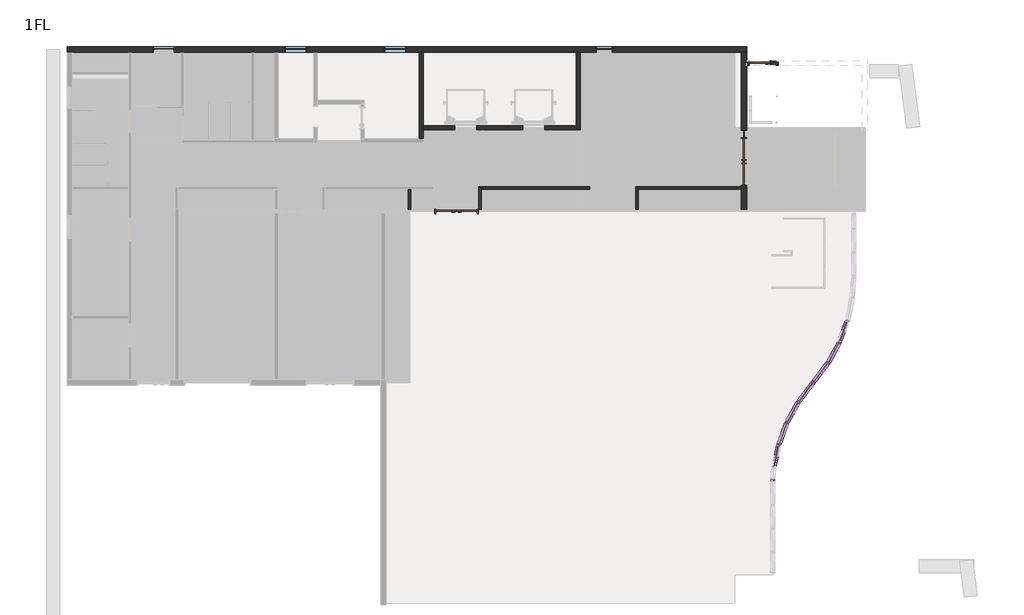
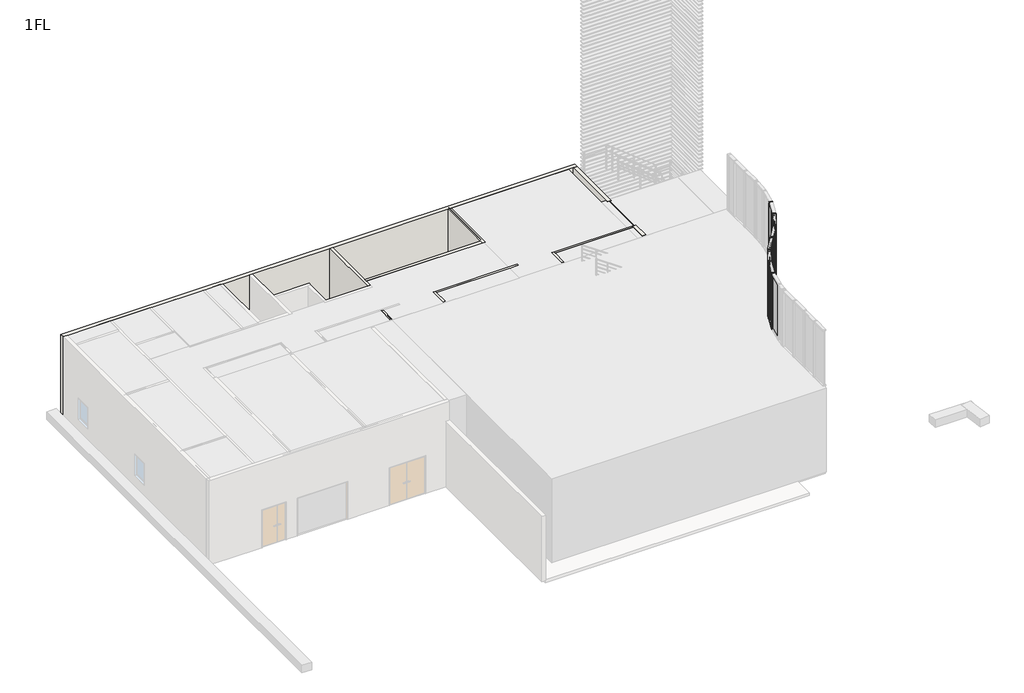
# One storey, part 3 of 4: 47 members, 22 plates, 11 walls, 4 windows, 3 doors.
"""IFC4 building model written with IfcOpenShell, lengths in millimetres."""

from ifc_helpers import new_model, si_unit, frame, origin, place, context, project, spatial, polyline, outline, extrude, faceted_brep, transform, mapped, element, save
from components import door_298ce04c, w1800h2000_ad426c29, w800h2000_09ab6a6a, member_70x150_cdd4dcf9, member_70x150_1b280ac3, member_70x150_f8cbd96f, member_70x150_4e68411c, member_70x150_de2330a6, member_70x150_827824a2, member_70x150_482b1498, member_70x150_afe49929, member_70x150_151b7a31, member_70x150_beb285de, member_70x150_2d59e3c7, member_70x150_2211757b, member_70x150_91355738, member_70x150_d69aca67, plate_28587fd3, plate_582e668a, plate_5bdd5470, w600_h3000_a9a4ebe6, w800_h1100_43525bd9, w800_h1100_2b598eca

model = new_model("IFC4")

# Units and contexts
model_context = context("Model", 3, world=origin())
ifc_project = project(units=[si_unit("LENGTHUNIT", "METRE", prefix="MILLI")], contexts=[model_context])

# Site, building, storey
site = spatial("IfcSite", under=ifc_project)
building = spatial("IfcBuilding", under=site)
storey = spatial("IfcBuildingStorey", under=building, Name="1FL", Elevation=100.0)

# Doors
placement = place(None, origin())
door_shape = door_298ce04c(model_context)
element("IfcDoor", 1, ObjectType="両開き戸 : 両開き：w1600h2000", at=placement, inside=storey, context=model_context, shape_type="MappedRepresentation", body=[
    mapped(door_shape, transform((-14037.5067943, 10449.6868987, 100.0), x_axis=(1.0, 0.0, 0.0), y_axis=(0.0, 1.0, 0.0), z_axis=(0.0, 0.0, 1.0))),
])
w1800h2000_shape = w1800h2000_ad426c29(model_context)
element("IfcDoor", 2, ObjectType="自由扉 : w1800h2000", at=placement, inside=storey, context=model_context, shape_type="MappedRepresentation", body=[
    mapped(w1800h2000_shape, transform((-3045.9784025, 12349.6868987, 100.0), x_axis=(0.0, -1.0, 0.0), y_axis=(1.0, 0.0, 0.0), z_axis=(0.0, 0.0, 1.0))),
])
w800h2000_shape = w800h2000_09ab6a6a(model_context)
element("IfcDoor", 3, ObjectType="片開き戸 : w800h2000", at=placement, inside=storey, context=model_context, shape_type="MappedRepresentation", body=[
    mapped(w800h2000_shape, transform((-2445.9784025, 16124.6868987, 100.0), x_axis=(-1.0, 0.0, 0.0), y_axis=(0.0, -1.0, 0.0), z_axis=(0.0, 0.0, 1.0))),
])

# Members
member_70x150_shape = member_70x150_cdd4dcf9(model_context)
element("IfcMember", 4, ObjectType="長方形のマリオン : 70x150", at=placement, inside=storey, context=model_context, shape_type="MappedRepresentation", body=[
    mapped(member_70x150_shape, transform((602.9638744, 5432.803778, 100.0), x_axis=(0.4146039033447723, 0.9100019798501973, 0.0), y_axis=(0.9100019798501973, -0.4146039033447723, 0.0), z_axis=(0.0, 0.0, -1.0))),
])
element("IfcMember", 5, ObjectType="長方形のマリオン : 70x150", at=placement, inside=storey, context=model_context, shape_type="MappedRepresentation", body=[
    mapped(member_70x150_shape, transform((170.6423616, 4643.4381405, 100.0), x_axis=(0.5435128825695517, 0.8394008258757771, 0.0), y_axis=(0.8394008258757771, -0.5435128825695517, 0.0), z_axis=(0.0, 0.0, -1.0))),
])
element("IfcMember", 6, ObjectType="長方形のマリオン : 70x150", at=placement, inside=storey, context=model_context, shape_type="MappedRepresentation", body=[
    mapped(member_70x150_shape, transform((-1396.8239853, 2367.7127496, 100.0), x_axis=(-0.4168091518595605, -0.9089940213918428, 0.0), y_axis=(-0.9089940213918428, 0.4168091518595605, 0.0), z_axis=(0.0, 0.0, -1.0))),
])
element("IfcMember", 7, ObjectType="長方形のマリオン : 70x150", at=placement, inside=storey, context=model_context, shape_type="MappedRepresentation", body=[
    mapped(member_70x150_shape, transform((-1711.3190408, 1524.4495285, 100.0), x_axis=(-0.28020945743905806, -0.9599388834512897, 0.0), y_axis=(-0.9599388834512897, 0.28020945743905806, 0.0), z_axis=(0.0, 0.0, -1.0))),
])
element("IfcMember", 8, ObjectType="長方形のマリオン : 70x150", at=placement, inside=storey, context=model_context, shape_type="MappedRepresentation", body=[
    mapped(member_70x150_shape, transform((-963.0585466, 3156.2858561, 100.0), x_axis=(-0.5445496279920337, -0.8387286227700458, 0.0), y_axis=(-0.8387286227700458, 0.5445496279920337, 0.0), z_axis=(0.0, 0.0, -1.0))),
])
member_70x150_2_shape = member_70x150_1b280ac3(model_context)
element("IfcMember", 9, ObjectType="長方形のマリオン : 70x150", at=placement, inside=storey, context=model_context, shape_type="MappedRepresentation", body=[
    mapped(member_70x150_2_shape, transform((-395.9784025, 3899.6868987, 3100.0), x_axis=(-0.6060115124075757, -0.7954558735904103, 0.0), y_axis=(0.7954558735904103, -0.6060115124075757, 0.0), z_axis=(0.0, 0.0, 1.0))),
])
element("IfcMember", 10, ObjectType="長方形のマリオン : 70x150", at=placement, inside=storey, context=model_context, shape_type="MappedRepresentation", body=[
    mapped(member_70x150_2_shape, transform((-395.9784025, 3899.6868987, 3100.0), x_axis=(0.6065028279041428, 0.7950813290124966, 0.0), y_axis=(-0.7950813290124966, 0.6065028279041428, 0.0), z_axis=(0.0, 0.0, 1.0))),
])
member_70x150_3_shape = member_70x150_f8cbd96f(model_context)
element("IfcMember", 11, ObjectType="長方形のマリオン : 70x150", at=placement, inside=storey, context=model_context, shape_type="MappedRepresentation", body=[
    mapped(member_70x150_3_shape, transform((602.9638744, 5432.803778, 3100.0), x_axis=(0.4146039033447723, 0.9100019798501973, 0.0), y_axis=(0.9100019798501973, -0.4146039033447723, 0.0), z_axis=(0.0, 0.0, -1.0))),
])
element("IfcMember", 12, ObjectType="長方形のマリオン : 70x150", at=placement, inside=storey, context=model_context, shape_type="MappedRepresentation", body=[
    mapped(member_70x150_3_shape, transform((914.9114935, 6277.0126875, 3100.0), x_axis=(0.27673863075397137, 0.960945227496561, 0.0), y_axis=(0.960945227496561, -0.27673863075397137, 0.0), z_axis=(0.0, 0.0, -1.0))),
])
element("IfcMember", 13, ObjectType="長方形のマリオン : 70x150", at=placement, inside=storey, context=model_context, shape_type="MappedRepresentation", body=[
    mapped(member_70x150_3_shape, transform((170.6423616, 4643.4381405, 3100.0), x_axis=(0.5435128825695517, 0.8394008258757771, 0.0), y_axis=(0.8394008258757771, -0.5435128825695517, 0.0), z_axis=(0.0, 0.0, -1.0))),
])
element("IfcMember", 14, ObjectType="長方形のマリオン : 70x150", at=placement, inside=storey, context=model_context, shape_type="MappedRepresentation", body=[
    mapped(member_70x150_3_shape, transform((-963.0585466, 3156.2858561, 3100.0), x_axis=(-0.5445496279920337, -0.8387286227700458, 0.0), y_axis=(-0.8387286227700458, 0.5445496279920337, 0.0), z_axis=(0.0, 0.0, -1.0))),
])
element("IfcMember", 15, ObjectType="長方形のマリオン : 70x150", at=placement, inside=storey, context=model_context, shape_type="MappedRepresentation", body=[
    mapped(member_70x150_3_shape, transform((-1396.8239853, 2367.7127496, 3100.0), x_axis=(-0.4168091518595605, -0.9089940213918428, 0.0), y_axis=(-0.9089940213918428, 0.4168091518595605, 0.0), z_axis=(0.0, 0.0, -1.0))),
])
element("IfcMember", 16, ObjectType="長方形のマリオン : 70x150", at=placement, inside=storey, context=model_context, shape_type="MappedRepresentation", body=[
    mapped(member_70x150_3_shape, transform((-1711.3190408, 1524.4495285, 3100.0), x_axis=(-0.2802094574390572, -0.95993888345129, 0.0), y_axis=(-0.95993888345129, 0.2802094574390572, 0.0), z_axis=(0.0, 0.0, -1.0))),
])
element("IfcMember", 17, ObjectType="長方形のマリオン : 70x150", at=placement, inside=storey, context=model_context, shape_type="MappedRepresentation", body=[
    mapped(member_70x150_shape, transform((602.9638744, 5432.803778, 4600.0), x_axis=(0.4146039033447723, 0.9100019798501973, 0.0), y_axis=(0.9100019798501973, -0.4146039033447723, 0.0), z_axis=(0.0, 0.0, -1.0))),
])
element("IfcMember", 18, ObjectType="長方形のマリオン : 70x150", at=placement, inside=storey, context=model_context, shape_type="MappedRepresentation", body=[
    mapped(member_70x150_shape, transform((914.9114935, 6277.0126875, 4600.0), x_axis=(0.27673863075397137, 0.960945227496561, 0.0), y_axis=(0.960945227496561, -0.27673863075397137, 0.0), z_axis=(0.0, 0.0, -1.0))),
])
element("IfcMember", 19, ObjectType="長方形のマリオン : 70x150", at=placement, inside=storey, context=model_context, shape_type="MappedRepresentation", body=[
    mapped(member_70x150_shape, transform((170.6423616, 4643.4381405, 4600.0), x_axis=(0.5435128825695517, 0.8394008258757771, 0.0), y_axis=(0.8394008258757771, -0.5435128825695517, 0.0), z_axis=(0.0, 0.0, -1.0))),
])
element("IfcMember", 20, ObjectType="長方形のマリオン : 70x150", at=placement, inside=storey, context=model_context, shape_type="MappedRepresentation", body=[
    mapped(member_70x150_shape, transform((-963.0585466, 3156.2858561, 4600.0), x_axis=(-0.5445496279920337, -0.8387286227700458, 0.0), y_axis=(-0.8387286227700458, 0.5445496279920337, 0.0), z_axis=(0.0, 0.0, -1.0))),
])
element("IfcMember", 21, ObjectType="長方形のマリオン : 70x150", at=placement, inside=storey, context=model_context, shape_type="MappedRepresentation", body=[
    mapped(member_70x150_shape, transform((-1711.3190408, 1524.4495285, 4600.0), x_axis=(-0.2802094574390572, -0.95993888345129, 0.0), y_axis=(-0.95993888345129, 0.2802094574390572, 0.0), z_axis=(0.0, 0.0, -1.0))),
])
element("IfcMember", 22, ObjectType="長方形のマリオン : 70x150", at=placement, inside=storey, context=model_context, shape_type="MappedRepresentation", body=[
    mapped(member_70x150_shape, transform((-1396.8239853, 2367.7127496, 4600.0), x_axis=(-0.4168091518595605, -0.9089940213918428, 0.0), y_axis=(-0.9089940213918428, 0.4168091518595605, 0.0), z_axis=(0.0, 0.0, -1.0))),
])
member_70x150_4_shape = member_70x150_4e68411c(model_context)
element("IfcMember", 23, ObjectType="長方形のマリオン : 70x150", at=placement, inside=storey, context=model_context, shape_type="MappedRepresentation", body=[
    mapped(member_70x150_4_shape, transform((-395.9784025, 3899.6868987, 4600.0), x_axis=(-0.6060115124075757, -0.7954558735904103, 0.0), y_axis=(0.7954558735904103, -0.6060115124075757, 0.0), z_axis=(0.0, 0.0, 1.0))),
])
element("IfcMember", 24, ObjectType="長方形のマリオン : 70x150", at=placement, inside=storey, context=model_context, shape_type="MappedRepresentation", body=[
    mapped(member_70x150_4_shape, transform((-395.9784025, 3899.6868987, 4600.0), x_axis=(0.6065028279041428, 0.7950813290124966, 0.0), y_axis=(-0.7950813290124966, 0.6065028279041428, 0.0), z_axis=(0.0, 0.0, 1.0))),
])
element("IfcMember", 25, ObjectType="長方形のマリオン : 70x150", at=placement, inside=storey, context=model_context, shape_type="MappedRepresentation", body=[
    mapped(member_70x150_2_shape, transform((-395.9784025, 3899.6868987, 7600.0), x_axis=(-0.6060115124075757, -0.7954558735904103, 0.0), y_axis=(0.7954558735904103, -0.6060115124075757, 0.0), z_axis=(0.0, 0.0, 1.0))),
])
element("IfcMember", 26, ObjectType="長方形のマリオン : 70x150", at=placement, inside=storey, context=model_context, shape_type="MappedRepresentation", body=[
    mapped(member_70x150_2_shape, transform((-395.9784025, 3899.6868987, 7600.0), x_axis=(0.6065028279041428, 0.7950813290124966, 0.0), y_axis=(-0.7950813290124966, 0.6065028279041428, 0.0), z_axis=(0.0, 0.0, 1.0))),
])
member_70x150_5_shape = member_70x150_de2330a6(model_context)
element("IfcMember", 27, ObjectType="長方形のマリオン : 70x150", at=placement, inside=storey, context=model_context, shape_type="MappedRepresentation", body=[
    mapped(member_70x150_5_shape, transform((187.4548649, 4674.1356931, 100.0), x_axis=(0.0, 0.0, -1.0), y_axis=(0.8770729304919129, -0.4803572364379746, 0.0), z_axis=(-0.48035723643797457, -0.8770729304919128, 0.0))),
])
element("IfcMember", 28, ObjectType="長方形のマリオン : 70x150", at=placement, inside=storey, context=model_context, shape_type="MappedRepresentation", body=[
    mapped(member_70x150_5_shape, transform((615.0951707, 5465.6341244, 100.0), x_axis=(0.0, 0.0, -1.0), y_axis=(0.9380098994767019, -0.346608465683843, 0.0), z_axis=(-0.346608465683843, -0.9380098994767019, 0.0))),
])
element("IfcMember", 29, ObjectType="長方形のマリオン : 70x150", at=placement, inside=storey, context=model_context, shape_type="MappedRepresentation", body=[
    mapped(member_70x150_5_shape, transform((586.1513711, 5402.1062254, 7600.0), x_axis=(0.0, 0.0, 1.0), y_axis=(0.8770729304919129, -0.4803572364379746, 0.0), z_axis=(0.4803572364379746, 0.8770729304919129, 0.0))),
])
member_70x150_6_shape = member_70x150_827824a2(model_context)
element("IfcMember", 30, ObjectType="長方形のマリオン : 70x150", at=placement, inside=storey, context=model_context, shape_type="MappedRepresentation", body=[
    mapped(member_70x150_6_shape, transform((149.4319587, 4615.5971849, 7600.0), x_axis=(0.0, 0.0, 1.0), y_axis=(0.7954558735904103, -0.6060115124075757, 0.0), z_axis=(0.6060115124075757, 0.7954558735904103, 0.0))),
])
member_70x150_7_shape = member_70x150_482b1498(model_context)
element("IfcMember", 31, ObjectType="長方形のマリオン : 70x150", at=placement, inside=storey, context=model_context, shape_type="MappedRepresentation", body=[
    mapped(member_70x150_7_shape, transform((586.1513711, 5402.1062254, 4600.0), x_axis=(0.0, 0.0, 1.0), y_axis=(0.8770729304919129, -0.4803572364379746, 0.0), z_axis=(0.4803572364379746, 0.8770729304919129, 0.0))),
])
element("IfcMember", 32, ObjectType="長方形のマリオン : 70x150", at=placement, inside=storey, context=model_context, shape_type="MappedRepresentation", body=[
    mapped(member_70x150_7_shape, transform((586.1513711, 5402.1062254, 3100.0), x_axis=(0.0, 0.0, 1.0), y_axis=(0.8770729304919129, -0.4803572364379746, 0.0), z_axis=(0.4803572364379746, 0.8770729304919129, 0.0))),
])
member_70x150_8_shape = member_70x150_afe49929(model_context)
element("IfcMember", 33, ObjectType="長方形のマリオン : 70x150", at=placement, inside=storey, context=model_context, shape_type="MappedRepresentation", body=[
    mapped(member_70x150_8_shape, transform((149.4319587, 4615.5971849, 4600.0), x_axis=(0.0, 0.0, 1.0), y_axis=(0.7954558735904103, -0.6060115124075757, 0.0), z_axis=(0.6060115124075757, 0.7954558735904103, 0.0))),
])
element("IfcMember", 34, ObjectType="長方形のマリオン : 70x150", at=placement, inside=storey, context=model_context, shape_type="MappedRepresentation", body=[
    mapped(member_70x150_8_shape, transform((149.4319587, 4615.5971849, 3100.0), x_axis=(0.0, 0.0, 1.0), y_axis=(0.7954558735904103, -0.6060115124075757, 0.0), z_axis=(0.6060115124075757, 0.7954558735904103, 0.0))),
])
member_70x150_9_shape = member_70x150_151b7a31(model_context)
element("IfcMember", 35, ObjectType="長方形のマリオン : 70x150", at=placement, inside=storey, context=model_context, shape_type="MappedRepresentation", body=[
    mapped(member_70x150_9_shape, transform((-353.5575966, 3955.3688099, 100.0), x_axis=(0.0, 0.0, -1.0), y_axis=(0.7954558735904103, -0.6060115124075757, 0.0), z_axis=(-0.6060115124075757, -0.7954558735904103, 0.0))),
])
member_70x150_10_shape = member_70x150_beb285de(model_context)
element("IfcMember", 36, ObjectType="長方形のマリオン : 70x150", at=placement, inside=storey, context=model_context, shape_type="MappedRepresentation", body=[
    mapped(member_70x150_10_shape, transform((-1699.0886775, 1557.2430982, 4600.0), x_axis=(0.0, 0.0, 1.0), y_axis=(-0.9369591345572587, 0.3494389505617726, 0.0), z_axis=(-0.3494389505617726, -0.9369591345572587, 0.0))),
])
element("IfcMember", 37, ObjectType="長方形のマリオン : 70x150", at=placement, inside=storey, context=model_context, shape_type="MappedRepresentation", body=[
    mapped(member_70x150_10_shape, transform((-1379.9553293, 2398.3794815, 4600.0), x_axis=(0.0, 0.0, 1.0), y_axis=(-0.8761923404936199, 0.4819615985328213, 0.0), z_axis=(-0.4819615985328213, -0.8761923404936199, 0.0))),
])
element("IfcMember", 38, ObjectType="長方形のマリオン : 70x150", at=placement, inside=storey, context=model_context, shape_type="MappedRepresentation", body=[
    mapped(member_70x150_10_shape, transform((-1379.9553293, 2398.3794815, 3100.0), x_axis=(0.0, 0.0, 1.0), y_axis=(-0.8761923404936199, 0.4819615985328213, 0.0), z_axis=(-0.4819615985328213, -0.8761923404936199, 0.0))),
])
element("IfcMember", 39, ObjectType="長方形のマリオン : 70x150", at=placement, inside=storey, context=model_context, shape_type="MappedRepresentation", body=[
    mapped(member_70x150_10_shape, transform((-1699.0886775, 1557.2430982, 3100.0), x_axis=(0.0, 0.0, 1.0), y_axis=(-0.9369591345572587, 0.3494389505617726, 0.0), z_axis=(-0.3494389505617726, -0.9369591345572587, 0.0))),
])
member_70x150_11_shape = member_70x150_2d59e3c7(model_context)
element("IfcMember", 40, ObjectType="長方形のマリオン : 70x150", at=placement, inside=storey, context=model_context, shape_type="MappedRepresentation", body=[
    mapped(member_70x150_11_shape, transform((-941.8309476, 3184.1137026, 4600.0), x_axis=(0.0, 0.0, 1.0), y_axis=(-0.7950813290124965, 0.6065028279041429, 0.0), z_axis=(-0.6065028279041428, -0.7950813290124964, 0.0))),
])
member_70x150_12_shape = member_70x150_2211757b(model_context)
element("IfcMember", 41, ObjectType="長方形のマリオン : 70x150", at=placement, inside=storey, context=model_context, shape_type="MappedRepresentation", body=[
    mapped(member_70x150_12_shape, transform((-979.9272025, 3125.6191242, 100.0), x_axis=(0.0, 0.0, -1.0), y_axis=(-0.8761923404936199, 0.4819615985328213, 0.0), z_axis=(0.4819615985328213, 0.8761923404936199, 0.0))),
])
element("IfcMember", 42, ObjectType="長方形のマリオン : 70x150", at=placement, inside=storey, context=model_context, shape_type="MappedRepresentation", body=[
    mapped(member_70x150_12_shape, transform((-1718.6511568, 1490.2261436, 100.0), x_axis=(0.0, 0.0, -1.0), y_axis=(-0.9778109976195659, 0.2094890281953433, 0.0), z_axis=(0.2094890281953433, 0.9778109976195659, 0.0))),
])
element("IfcMember", 43, ObjectType="長方形のマリオン : 70x150", at=placement, inside=storey, context=model_context, shape_type="MappedRepresentation", body=[
    mapped(member_70x150_12_shape, transform((-1409.0543485, 2334.9191799, 100.0), x_axis=(0.0, 0.0, -1.0), y_axis=(-0.9369591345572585, 0.34943895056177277, 0.0), z_axis=(0.34943895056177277, 0.9369591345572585, 0.0))),
])
member_70x150_13_shape = member_70x150_91355738(model_context)
element("IfcMember", 44, ObjectType="長方形のマリオン : 70x150", at=placement, inside=storey, context=model_context, shape_type="MappedRepresentation", body=[
    mapped(member_70x150_13_shape, transform((-941.8309476, 3184.1137026, 7600.0), x_axis=(0.0, 0.0, 1.0), y_axis=(-0.7950813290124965, 0.6065028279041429, 0.0), z_axis=(-0.6065028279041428, -0.7950813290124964, 0.0))),
])
element("IfcMember", 45, ObjectType="長方形のマリオン : 70x150", at=placement, inside=storey, context=model_context, shape_type="MappedRepresentation", body=[
    mapped(member_70x150_12_shape, transform((-1699.0886775, 1557.2430982, 7600.0), x_axis=(0.0, 0.0, 1.0), y_axis=(-0.9369591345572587, 0.3494389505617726, 0.0), z_axis=(-0.3494389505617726, -0.9369591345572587, 0.0))),
])
element("IfcMember", 46, ObjectType="長方形のマリオン : 70x150", at=placement, inside=storey, context=model_context, shape_type="MappedRepresentation", body=[
    mapped(member_70x150_12_shape, transform((-1379.9553293, 2398.3794815, 7600.0), x_axis=(0.0, 0.0, 1.0), y_axis=(-0.8761923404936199, 0.4819615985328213, 0.0), z_axis=(-0.4819615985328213, -0.8761923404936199, 0.0))),
])
element("IfcMember", 47, ObjectType="長方形のマリオン : 70x150", at=placement, inside=storey, context=model_context, shape_type="MappedRepresentation", body=[
    mapped(member_70x150_11_shape, transform((-941.8309476, 3184.1137026, 3100.0), x_axis=(0.0, 0.0, 1.0), y_axis=(-0.7950813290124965, 0.6065028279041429, 0.0), z_axis=(-0.6065028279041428, -0.7950813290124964, 0.0))),
])
member_70x150_14_shape = member_70x150_d69aca67(model_context)
element("IfcMember", 48, ObjectType="長方形のマリオン : 70x150", at=placement, inside=storey, context=model_context, shape_type="MappedRepresentation", body=[
    mapped(member_70x150_14_shape, transform((-438.4336005, 3844.0312057, 100.0), x_axis=(0.0, 0.0, -1.0), y_axis=(-0.7950813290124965, 0.6065028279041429, 0.0), z_axis=(0.6065028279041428, 0.7950813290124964, 0.0))),
])
element("IfcMember", 49, ObjectType="長方形のマリオン : 70x150", at=placement, inside=storey, context=model_context, shape_type="MappedRepresentation", body=[
    mapped(member_70x150_4_shape, transform((-1945.9784025, 189.6095485, 3100.0), x_axis=(0.0, 1.0, 0.0), y_axis=(1.0, 0.0, 0.0), z_axis=(0.0, 0.0, -1.0))),
])
element("IfcMember", 50, ObjectType="長方形のマリオン : 70x150", at=placement, inside=storey, context=model_context, shape_type="MappedRepresentation", body=[
    mapped(member_70x150_2_shape, transform((-1945.9784025, 189.6095485, 100.0), x_axis=(0.0, 1.0, 0.0), y_axis=(1.0, 0.0, 0.0), z_axis=(0.0, 0.0, -1.0))),
])

# Plates
plate_shape = plate_28587fd3(model_context)
element("IfcPlate", 51, ObjectType="システム パネル : 標準", at=placement, inside=storey, context=model_context, shape_type="MappedRepresentation", body=[
    mapped(plate_shape, transform((-102.062819, 4285.4829974, 170.0), x_axis=(0.6060115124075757, 0.7954558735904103, 0.0), y_axis=(-0.7954558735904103, 0.6060115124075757, 0.0), z_axis=(0.0, 0.0, 1.0))),
])
element("IfcPlate", 52, ObjectType="システム パネル : 標準", at=placement, inside=storey, context=model_context, shape_type="MappedRepresentation", body=[
    mapped(plate_shape, transform((386.803118, 5038.1209592, 170.0), x_axis=(0.48035723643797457, 0.8770729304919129, 0.0), y_axis=(-0.8770729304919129, 0.48035723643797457, 0.0), z_axis=(0.0, 0.0, 1.0))),
])
element("IfcPlate", 53, ObjectType="システム パネル : 標準", at=placement, inside=storey, context=model_context, shape_type="MappedRepresentation", body=[
    mapped(plate_shape, transform((758.9376839, 5854.9082327, 170.0), x_axis=(0.346608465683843, 0.9380098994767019, 0.0), y_axis=(-0.9380098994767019, 0.346608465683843, 0.0), z_axis=(0.0, 0.0, 1.0))),
])
element("IfcPlate", 54, ObjectType="システム パネル : 標準", at=placement, inside=storey, context=model_context, shape_type="MappedRepresentation", body=[
    mapped(plate_shape, transform((-690.132274, 3514.0724541, 170.0), x_axis=(-0.6065028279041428, -0.7950813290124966, 0.0), y_axis=(0.7950813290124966, -0.6065028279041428, 0.0), z_axis=(0.0, 0.0, 1.0))),
])
element("IfcPlate", 55, ObjectType="システム パネル : 標準", at=placement, inside=storey, context=model_context, shape_type="MappedRepresentation", body=[
    mapped(plate_shape, transform((-1179.9412659, 2761.9993029, 170.0), x_axis=(-0.4819615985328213, -0.8761923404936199, 0.0), y_axis=(0.8761923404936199, -0.4819615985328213, 0.0), z_axis=(0.0, 0.0, 1.0))),
])
element("IfcPlate", 56, ObjectType="システム パネル : 標準", at=placement, inside=storey, context=model_context, shape_type="MappedRepresentation", body=[
    mapped(plate_shape, transform((-1554.071513, 1946.0811391, 170.0), x_axis=(-0.34943895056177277, -0.9369591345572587, 0.0), y_axis=(0.9369591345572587, -0.34943895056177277, 0.0), z_axis=(0.0, 0.0, 1.0))),
])
element("IfcPlate", 57, ObjectType="システム パネル : 標準", at=placement, inside=storey, context=model_context, shape_type="MappedRepresentation", body=[
    mapped(plate_shape, transform((-1805.5891035, 1084.4345796, 170.0), x_axis=(-0.20948902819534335, -0.9778109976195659, 0.0), y_axis=(0.9778109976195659, -0.20948902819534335, 0.0), z_axis=(0.0, 0.0, 1.0))),
])
element("IfcPlate", 58, ObjectType="システム パネル : 標準", at=placement, inside=storey, context=model_context, shape_type="MappedRepresentation", body=[
    mapped(plate_shape, transform((-102.062819, 4285.4829974, 4635.0), x_axis=(0.6060115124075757, 0.7954558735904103, 0.0), y_axis=(-0.7954558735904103, 0.6060115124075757, 0.0), z_axis=(0.0, 0.0, 1.0))),
])
element("IfcPlate", 59, ObjectType="システム パネル : 標準", at=placement, inside=storey, context=model_context, shape_type="MappedRepresentation", body=[
    mapped(plate_shape, transform((386.803118, 5038.1209592, 4635.0), x_axis=(0.48035723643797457, 0.8770729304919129, 0.0), y_axis=(-0.8770729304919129, 0.48035723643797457, 0.0), z_axis=(0.0, 0.0, 1.0))),
])
element("IfcPlate", 60, ObjectType="システム パネル : 標準", at=placement, inside=storey, context=model_context, shape_type="MappedRepresentation", body=[
    mapped(plate_shape, transform((758.9376839, 5854.9082327, 4635.0), x_axis=(0.346608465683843, 0.9380098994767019, 0.0), y_axis=(-0.9380098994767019, 0.346608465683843, 0.0), z_axis=(0.0, 0.0, 1.0))),
])
element("IfcPlate", 61, ObjectType="システム パネル : 標準", at=placement, inside=storey, context=model_context, shape_type="MappedRepresentation", body=[
    mapped(plate_shape, transform((-690.132274, 3514.0724541, 4635.0), x_axis=(-0.6065028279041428, -0.7950813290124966, 0.0), y_axis=(0.7950813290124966, -0.6065028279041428, 0.0), z_axis=(0.0, 0.0, 1.0))),
])
element("IfcPlate", 62, ObjectType="システム パネル : 標準", at=placement, inside=storey, context=model_context, shape_type="MappedRepresentation", body=[
    mapped(plate_shape, transform((-1179.9412659, 2761.9993029, 4635.0), x_axis=(-0.4819615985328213, -0.8761923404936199, 0.0), y_axis=(0.8761923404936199, -0.4819615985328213, 0.0), z_axis=(0.0, 0.0, 1.0))),
])
element("IfcPlate", 63, ObjectType="システム パネル : 標準", at=placement, inside=storey, context=model_context, shape_type="MappedRepresentation", body=[
    mapped(plate_shape, transform((-1554.071513, 1946.0811391, 4635.0), x_axis=(-0.34943895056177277, -0.9369591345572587, 0.0), y_axis=(0.9369591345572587, -0.34943895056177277, 0.0), z_axis=(0.0, 0.0, 1.0))),
])
element("IfcPlate", 64, ObjectType="システム パネル : 標準", at=placement, inside=storey, context=model_context, shape_type="MappedRepresentation", body=[
    mapped(plate_shape, transform((-1805.5891035, 1084.4345796, 4635.0), x_axis=(-0.20948902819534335, -0.9778109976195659, 0.0), y_axis=(0.9778109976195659, -0.20948902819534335, 0.0), z_axis=(0.0, 0.0, 1.0))),
])
plate_2_shape = plate_582e668a(model_context)
element("IfcPlate", 65, ObjectType="システム パネル : 標準", at=placement, inside=storey, context=model_context, shape_type="MappedRepresentation", body=[
    mapped(plate_2_shape, transform((-102.062819, 4285.4829974, 3135.0), x_axis=(0.6060115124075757, 0.7954558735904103, 0.0), y_axis=(-0.7954558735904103, 0.6060115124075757, 0.0), z_axis=(0.0, 0.0, 1.0))),
])
element("IfcPlate", 66, ObjectType="システム パネル : 標準", at=placement, inside=storey, context=model_context, shape_type="MappedRepresentation", body=[
    mapped(plate_2_shape, transform((386.803118, 5038.1209592, 3135.0), x_axis=(0.48035723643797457, 0.8770729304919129, 0.0), y_axis=(-0.8770729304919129, 0.48035723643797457, 0.0), z_axis=(0.0, 0.0, 1.0))),
])
element("IfcPlate", 67, ObjectType="システム パネル : 標準", at=placement, inside=storey, context=model_context, shape_type="MappedRepresentation", body=[
    mapped(plate_2_shape, transform((758.9376839, 5854.9082327, 3135.0), x_axis=(0.346608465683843, 0.9380098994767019, 0.0), y_axis=(-0.9380098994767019, 0.346608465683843, 0.0), z_axis=(0.0, 0.0, 1.0))),
])
element("IfcPlate", 68, ObjectType="システム パネル : 標準", at=placement, inside=storey, context=model_context, shape_type="MappedRepresentation", body=[
    mapped(plate_2_shape, transform((-690.132274, 3514.0724541, 3135.0), x_axis=(-0.6065028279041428, -0.7950813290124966, 0.0), y_axis=(0.7950813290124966, -0.6065028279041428, 0.0), z_axis=(0.0, 0.0, 1.0))),
])
element("IfcPlate", 69, ObjectType="システム パネル : 標準", at=placement, inside=storey, context=model_context, shape_type="MappedRepresentation", body=[
    mapped(plate_2_shape, transform((-1179.9412659, 2761.9993029, 3135.0), x_axis=(-0.4819615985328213, -0.8761923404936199, 0.0), y_axis=(0.8761923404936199, -0.4819615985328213, 0.0), z_axis=(0.0, 0.0, 1.0))),
])
element("IfcPlate", 70, ObjectType="システム パネル : 標準", at=placement, inside=storey, context=model_context, shape_type="MappedRepresentation", body=[
    mapped(plate_2_shape, transform((-1554.071513, 1946.0811391, 3135.0), x_axis=(-0.34943895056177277, -0.9369591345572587, 0.0), y_axis=(0.9369591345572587, -0.34943895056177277, 0.0), z_axis=(0.0, 0.0, 1.0))),
])
element("IfcPlate", 71, ObjectType="システム パネル : 標準", at=placement, inside=storey, context=model_context, shape_type="MappedRepresentation", body=[
    mapped(plate_2_shape, transform((-1805.5891035, 1084.4345796, 3135.0), x_axis=(-0.20948902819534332, -0.9778109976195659, 0.0), y_axis=(0.9778109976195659, -0.20948902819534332, 0.0), z_axis=(0.0, 0.0, 1.0))),
])
plate_3_shape = plate_5bdd5470(model_context)
element("IfcPlate", 72, ObjectType="システム パネル : 標準", at=placement, inside=storey, context=model_context, shape_type="MappedRepresentation", body=[
    mapped(plate_3_shape, transform((-3045.9784025, 12474.6868987, 100.0), x_axis=(0.0, 1.0, 0.0), y_axis=(-1.0, 0.0, 0.0), z_axis=(0.0, 0.0, 1.0))),
])

# Walls
element("IfcWall", 73, ObjectType="標準200", at=placement, inside=storey, context=model_context, shape_type="Brep", body=[
    faceted_brep([(-28945.9784025, 16549.6868987, 4600.0), (-28945.9784025, 16549.6868987, 100.0), (-28745.9784025, 16549.6868987, 100.0), (-27945.9784025, 16549.6868987, 100.0), (-26595.9784025, 16549.6868987, 100.0), (-26495.9784025, 16549.6868987, 100.0), (-24595.9784025, 16549.6868987, 100.0), (-24495.9784025, 16549.6868987, 100.0), (-21895.9784025, 16549.6868987, 100.0), (-21795.9784025, 16549.6868987, 100.0), (-21020.9784025, 16549.6868987, 100.0), (-20870.9784025, 16549.6868987, 100.0), (-19520.9784025, 16549.6868987, 100.0), (-19370.9784025, 16549.6868987, 100.0), (-15845.9784025, 16549.6868987, 100.0), (-15470.9784025, 16549.6868987, 100.0), (-15320.9784025, 16549.6868987, 100.0), (-14945.9784025, 16549.6868987, 100.0), (-9845.9784025, 16549.6868987, 100.0), (-9470.9784025, 16549.6868987, 100.0), (-9320.9784025, 16549.6868987, 100.0), (-8945.9784025, 16549.6868987, 100.0), (-3845.9784025, 16549.6868987, 100.0), (-3145.9784025, 16549.6868987, 100.0), (-2945.9784025, 16549.6868987, 100.0), (-2945.9784025, 16549.6868987, 4600.0), (-3145.9784025, 16549.6868987, 4600.0), (-9320.9784025, 16549.6868987, 4600.0), (-9470.9784025, 16549.6868987, 4600.0), (-15320.9784025, 16549.6868987, 4600.0), (-15470.9784025, 16549.6868987, 4600.0), (-19370.9784025, 16549.6868987, 4600.0), (-19520.9784025, 16549.6868987, 4600.0), (-20870.9784025, 16549.6868987, 4600.0), (-21020.9784025, 16549.6868987, 4600.0), (-21795.9784025, 16549.6868987, 4600.0), (-21895.9784025, 16549.6868987, 4600.0), (-24495.9784025, 16549.6868987, 4600.0), (-24595.9784025, 16549.6868987, 4600.0), (-26495.9784025, 16549.6868987, 4600.0), (-26595.9784025, 16549.6868987, 4600.0), (-28745.9784025, 16549.6868987, 4600.0), (-8070.9784025, 16549.6868987, 3425.0), (-8070.9784025, 16549.6868987, 375.0), (-8720.9784025, 16549.6868987, 375.0), (-8720.9784025, 16549.6868987, 3425.0), (-16820.9784025, 16549.6868987, 2125.0), (-15970.9784025, 16549.6868987, 2125.0), (-15970.9784025, 16549.6868987, 975.0), (-16820.9784025, 16549.6868987, 975.0), (-19770.9784025, 16549.6868987, 2125.0), (-19770.9784025, 16549.6868987, 975.0), (-20620.9784025, 16549.6868987, 975.0), (-20620.9784025, 16549.6868987, 2125.0), (-24820.9784025, 16549.6868987, 2125.0), (-24820.9784025, 16549.6868987, 975.0), (-25670.9784025, 16549.6868987, 975.0), (-25670.9784025, 16549.6868987, 2125.0), (-28945.9784025, 16749.6868987, 100.0), (-28945.9784025, 16749.6868987, 4600.0), (-2945.9784025, 16749.6868987, 4600.0), (-2945.9784025, 16749.6868987, 100.0), (-8070.9784025, 16749.6868987, 3425.0), (-8720.9784025, 16749.6868987, 3425.0), (-8720.9784025, 16749.6868987, 375.0), (-8070.9784025, 16749.6868987, 375.0), (-16820.9784025, 16749.6868987, 2125.0), (-16820.9784025, 16749.6868987, 975.0), (-15970.9784025, 16749.6868987, 975.0), (-15970.9784025, 16749.6868987, 2125.0), (-19770.9784025, 16749.6868987, 2125.0), (-20620.9784025, 16749.6868987, 2125.0), (-20620.9784025, 16749.6868987, 975.0), (-19770.9784025, 16749.6868987, 975.0), (-24820.9784025, 16749.6868987, 2125.0), (-25670.9784025, 16749.6868987, 2125.0), (-25670.9784025, 16749.6868987, 975.0), (-24820.9784025, 16749.6868987, 975.0), (-2945.9784025, 16649.6868987, 100.0)], [[[0, 1, 2, 3, 4, 5, 6, 7, 8, 9, 10, 11, 12, 13, 14, 15, 16, 17, 18, 19, 20, 21, 22, 23, 24, 25, 26, 27, 28, 29, 30, 31, 32, 33, 34, 35, 36, 37, 38, 39, 40, 41], [42, 43, 44, 45], [46, 47, 48, 49], [50, 51, 52, 53], [54, 55, 56, 57]], [[58, 59, 60, 61], [62, 63, 64, 65], [66, 67, 68, 69], [70, 71, 72, 73], [74, 75, 76, 77]], [[24, 23, 22, 21, 20, 19, 18, 17, 16, 15, 14, 13, 12, 11, 10, 9, 8, 7, 6, 5, 4, 3, 2, 1, 58, 61, 78]], [[0, 41, 40, 39, 38, 37, 36, 35, 34, 33, 32, 31, 30, 29, 28, 27, 26, 25, 60, 59]], [[25, 24, 78, 61, 60]], [[0, 59, 58, 1]], [[43, 42, 62, 65]], [[44, 43, 65, 64]], [[45, 44, 64, 63]], [[42, 45, 63, 62]], [[67, 66, 46, 49]], [[68, 67, 49, 48]], [[69, 68, 48, 47]], [[66, 69, 47, 46]], [[51, 50, 70, 73]], [[52, 51, 73, 72]], [[53, 52, 72, 71]], [[50, 53, 71, 70]], [[55, 54, 74, 77]], [[56, 55, 77, 76]], [[57, 56, 76, 75]], [[54, 57, 75, 74]]]),
])
element("IfcWall", 74, ObjectType="標準200", at=placement, inside=storey, context=model_context, shape_type="Brep", body=[
    faceted_brep([(-3145.9784025, 16549.6868987, 4600.0), (-3145.9784025, 16549.6868987, 100.0), (-3145.9784025, 15749.6868987, 100.0), (-3145.9784025, 13549.6868987, 100.0), (-3145.9784025, 13549.6868987, 4600.0), (-2945.9784025, 16549.6868987, 100.0), (-2945.9784025, 16549.6868987, 4600.0), (-2945.9784025, 13549.6868987, 4600.0), (-2945.9784025, 13549.6868987, 3500.0), (-2945.9784025, 13549.6868987, 100.0), (-2945.9784025, 15749.6868987, 100.0), (-2945.9784025, 16049.6868987, 100.0), (-2945.9784025, 16199.6868987, 100.0)], [[[0, 1, 2, 3, 4]], [[5, 6, 7, 8, 9, 10, 11, 12]], [[1, 5, 12, 11, 10, 9, 3, 2]], [[6, 0, 4, 7]], [[1, 0, 6, 5]], [[4, 3, 9, 8, 7]]]),
    faceted_brep([(-3145.9784025, 10524.6868987, 100.0), (-3145.9784025, 10524.6868987, 4600.0), (-3145.9784025, 11299.6868987, 4600.0), (-3145.9784025, 11399.6868987, 4600.0), (-3145.9784025, 11399.6868987, 100.0), (-3145.9784025, 11299.6868987, 100.0), (-2945.9784025, 10524.6868987, 4600.0), (-2945.9784025, 10524.6868987, 100.0), (-2945.9784025, 11349.6868987, 100.0), (-2945.9784025, 11399.6868987, 100.0), (-2945.9784025, 11399.6868987, 4600.0)], [[[0, 1, 2, 3, 4, 5]], [[6, 7, 8, 9, 10]], [[7, 0, 5, 4, 9, 8]], [[1, 6, 10, 3, 2]], [[1, 0, 7, 6]], [[4, 3, 10, 9]]]),
])
element("IfcWall", 75, ObjectType="標準150", at=placement, inside=storey, context=model_context, shape_type="Brep", body=[
    faceted_brep([(-9470.9784025, 16549.6868987, 100.0), (-9470.9784025, 15749.6868987, 100.0), (-9470.9784025, 13724.6868987, 100.0), (-9470.9784025, 13574.6868987, 100.0), (-9470.9784025, 13574.6868987, 4600.0), (-9470.9784025, 13724.6868987, 4600.0), (-9470.9784025, 16549.6868987, 4600.0), (-9320.9784025, 16549.6868987, 100.0), (-9320.9784025, 16549.6868987, 4600.0), (-9320.9784025, 13574.6868987, 4600.0), (-9320.9784025, 13574.6868987, 100.0), (-9320.9784025, 15749.6868987, 100.0)], [[[0, 1, 2, 3, 4, 5, 6]], [[7, 8, 9, 10, 11]], [[3, 2, 1, 0, 7, 11, 10]], [[6, 5, 4, 9, 8]], [[0, 6, 8, 7]], [[4, 3, 10, 9]]]),
])
element("IfcWall", 76, ObjectType="標準150", at=placement, inside=storey, context=model_context, shape_type="SweptSolid", body=[
    extrude(outline(polyline([(100.0, -15320.9784025), (100.0, -14120.9784025), (2225.0, -14120.9784025), (2225.0, -13270.9784025), (100.0, -13270.9784025), (100.0, -11520.9784025), (2225.0, -11520.9784025), (2225.0, -10670.9784025), (100.0, -10670.9784025), (100.0, -9470.9784025), (4600.0, -9470.9784025), (4600.0, -15320.9784025), (100.0, -15320.9784025)])), frame((0.0, 13574.6868987, 0.0), z_axis=(0.0, 1.0, 0.0), x_axis=(0.0, 0.0, 1.0)), (0.0, 0.0, 1.0), 150.0),
])
element("IfcWall", 77, ObjectType="標準150", at=placement, inside=storey, context=model_context, shape_type="Brep", body=[
    faceted_brep([(-15320.9784025, 13224.6868987, 100.0), (-15320.9784025, 13574.6868987, 100.0), (-15320.9784025, 13724.6868987, 100.0), (-15320.9784025, 15749.6868987, 100.0), (-15320.9784025, 16549.6868987, 100.0), (-15320.9784025, 16549.6868987, 4600.0), (-15320.9784025, 13724.6868987, 4600.0), (-15320.9784025, 13574.6868987, 4600.0), (-15320.9784025, 13224.6868987, 4600.0), (-15470.9784025, 13224.6868987, 100.0), (-15470.9784025, 13224.6868987, 4600.0), (-15470.9784025, 16549.6868987, 4600.0), (-15470.9784025, 16549.6868987, 100.0), (-15470.9784025, 15749.6868987, 100.0)], [[[0, 1, 2, 3, 4, 5, 6, 7, 8]], [[9, 10, 11, 12, 13]], [[4, 3, 2, 1, 0, 9, 13, 12]], [[8, 7, 6, 5, 11, 10]], [[5, 4, 12, 11]], [[0, 8, 10, 9]]]),
])
element("IfcWall", 78, ObjectType="標準100", at=placement, inside=storey, context=model_context, shape_type="Brep", body=[
    faceted_brep([(-15895.9784025, 11299.6868987, 100.0), (-15895.9784025, 10524.6868987, 100.0), (-15895.9784025, 10524.6868987, 4600.0), (-15895.9784025, 11299.6868987, 4600.0), (-15795.9784025, 11299.6868987, 100.0), (-15795.9784025, 11299.6868987, 4600.0), (-15795.9784025, 10524.6868987, 4600.0), (-15795.9784025, 10524.6868987, 100.0), (-15845.9784025, 11299.6868987, 100.0), (-15845.9784025, 10524.6868987, 100.0), (-15845.9784025, 11299.6868987, 4600.0)], [[[0, 1, 2, 3]], [[4, 5, 6, 7]], [[1, 0, 8, 4, 7, 9]], [[3, 2, 6, 5, 10]], [[2, 1, 9, 7, 6]], [[0, 3, 10, 5, 4, 8]]]),
])
element("IfcWall", 79, ObjectType="標準100", at=placement, inside=storey, context=model_context, shape_type="Brep", body=[
    faceted_brep([(-13095.9784025, 10524.6868987, 100.0), (-13095.9784025, 11299.6868987, 100.0), (-13095.9784025, 11399.6868987, 100.0), (-13095.9784025, 11399.6868987, 4600.0), (-13095.9784025, 11299.6868987, 4600.0), (-13095.9784025, 10524.6868987, 4600.0), (-13195.9784025, 10524.6868987, 100.0), (-13195.9784025, 10524.6868987, 4600.0), (-13195.9784025, 11399.6868987, 4600.0), (-13195.9784025, 11399.6868987, 100.0)], [[[0, 1, 2, 3, 4, 5]], [[6, 7, 8, 9]], [[2, 1, 0, 6, 9]], [[5, 4, 3, 8, 7]], [[0, 5, 7, 6]], [[3, 2, 9, 8]]]),
])
element("IfcWall", 80, ObjectType="標準100", at=placement, inside=storey, context=model_context, shape_type="Brep", body=[
    faceted_brep([(-13095.9784025, 11299.6868987, 100.0), (-9845.9784025, 11299.6868987, 100.0), (-8945.9784025, 11299.6868987, 100.0), (-8945.9784025, 11299.6868987, 4600.0), (-9345.9784025, 11299.6868987, 4600.0), (-9445.9784025, 11299.6868987, 4600.0), (-13095.9784025, 11299.6868987, 4600.0), (-13095.9784025, 11399.6868987, 100.0), (-13095.9784025, 11399.6868987, 4600.0), (-8945.9784025, 11399.6868987, 4600.0), (-8945.9784025, 11399.6868987, 100.0), (-8945.9784025, 11349.6868987, 100.0)], [[[0, 1, 2, 3, 4, 5, 6]], [[7, 8, 9, 10]], [[2, 1, 0, 7, 10, 11]], [[3, 2, 11, 10, 9]], [[6, 5, 4, 3, 9, 8]], [[0, 6, 8, 7]]]),
])
element("IfcWall", 81, ObjectType="標準100", at=placement, inside=storey, context=model_context, shape_type="Brep", body=[
    faceted_brep([(-7095.9784025, 10524.6868987, 100.0), (-7095.9784025, 11299.6868987, 100.0), (-7095.9784025, 11399.6868987, 100.0), (-7095.9784025, 11399.6868987, 4600.0), (-7095.9784025, 11299.6868987, 4600.0), (-7095.9784025, 10524.6868987, 4600.0), (-7195.9784025, 10524.6868987, 100.0), (-7195.9784025, 10524.6868987, 4600.0), (-7195.9784025, 11399.6868987, 4600.0), (-7195.9784025, 11399.6868987, 100.0)], [[[0, 1, 2, 3, 4, 5]], [[6, 7, 8, 9]], [[2, 1, 0, 6, 9]], [[5, 4, 3, 8, 7]], [[0, 5, 7, 6]], [[3, 2, 9, 8]]]),
])
element("IfcWall", 82, ObjectType="標準100", at=placement, inside=storey, context=model_context, shape_type="Brep", body=[
    faceted_brep([(-7095.9784025, 11299.6868987, 100.0), (-3845.9784025, 11299.6868987, 100.0), (-3145.9784025, 11299.6868987, 100.0), (-3145.9784025, 11299.6868987, 4600.0), (-7095.9784025, 11299.6868987, 4600.0), (-7095.9784025, 11399.6868987, 100.0), (-7095.9784025, 11399.6868987, 4600.0), (-3145.9784025, 11399.6868987, 4600.0), (-3145.9784025, 11399.6868987, 100.0), (-3145.9784025, 11349.6868987, 100.0), (-3145.9784025, 11349.6868987, 4600.0)], [[[0, 1, 2, 3, 4]], [[5, 6, 7, 8]], [[2, 1, 0, 5, 8, 9]], [[4, 3, 10, 7, 6]], [[0, 4, 6, 5]], [[3, 2, 9, 8, 7, 10]]]),
])
element("IfcWall", 83, ObjectType="標準150", at=placement, inside=storey, context=model_context, shape_type="SweptSolid", body=[
    extrude(outline(polyline([(2125.0, -2020.9784025), (100.0, -2020.9784025), (100.0, -1725.9784025), (2200.0, -1725.9784025), (2200.0, -2945.9784025), (100.0, -2945.9784025), (100.0, -2870.9784025), (2125.0, -2870.9784025), (2125.0, -2020.9784025)])), frame((0.0, 16049.6868987, 0.0), z_axis=(0.0, 1.0, 0.0), x_axis=(0.0, 0.0, 1.0)), (0.0, 0.0, 1.0), 150.0),
])

# Windows
w600_h3000_shape = w600_h3000_a9a4ebe6(model_context)
element("IfcWindow", 84, ObjectType="FIX窓 : W600 H3000", at=placement, inside=storey, context=model_context, shape_type="MappedRepresentation", body=[
    mapped(w600_h3000_shape, transform((-8470.9784025, 16649.6868987, -500.0), x_axis=(1.0, 0.0, 0.0), y_axis=(0.0, 1.0, 0.0), z_axis=(0.0, 0.0, 1.0))),
])
w800_h1100_shape = w800_h1100_43525bd9(model_context)
element("IfcWindow", 85, ObjectType="すべり出し窓 : W800 H1100", at=placement, inside=storey, context=model_context, shape_type="MappedRepresentation", body=[
    mapped(w800_h1100_shape, transform((-20270.9784025, 16649.6868987, 100.0), x_axis=(1.0, 0.0, 0.0), y_axis=(0.0, 1.0, 0.0), z_axis=(0.0, 0.0, 1.0))),
])
element("IfcWindow", 86, ObjectType="すべり出し窓 : W800 H1100", at=placement, inside=storey, context=model_context, shape_type="MappedRepresentation", body=[
    mapped(w800_h1100_shape, transform((-25320.9784025, 16649.6868987, 100.0), x_axis=(1.0, 0.0, 0.0), y_axis=(0.0, 1.0, 0.0), z_axis=(0.0, 0.0, 1.0))),
])
w800_h1100_2_shape = w800_h1100_2b598eca(model_context)
element("IfcWindow", 87, ObjectType="すべり出し窓 : W800 H1100", at=placement, inside=storey, context=model_context, shape_type="MappedRepresentation", body=[
    mapped(w800_h1100_2_shape, transform((-16320.9784025, 16649.6868987, 100.0), x_axis=(-1.0, 0.0, 0.0), y_axis=(0.0, -1.0, 0.0), z_axis=(0.0, 0.0, 1.0))),
])

save(model, "model.ifc")
